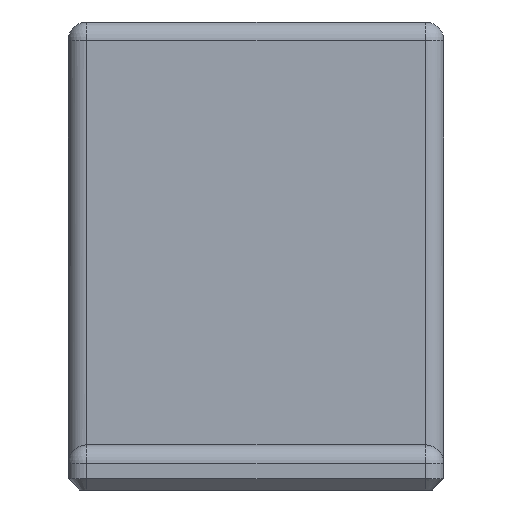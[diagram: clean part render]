
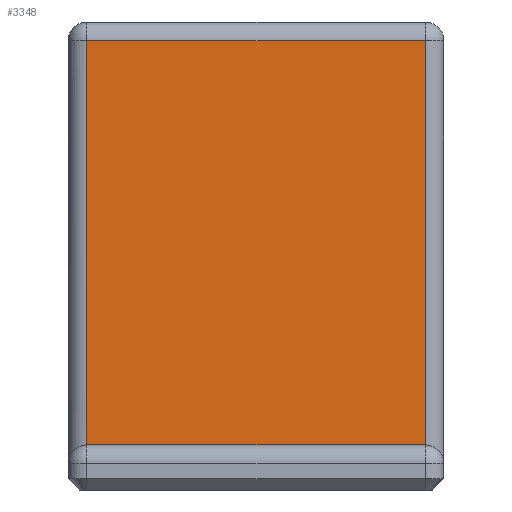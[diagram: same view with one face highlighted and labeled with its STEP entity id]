
A CAD part, left-side view. The second image highlights one B-rep face of the part: STEP entity #3348.
In plain terms, the highlighted planar face has unit normal (-1, 0, 0).
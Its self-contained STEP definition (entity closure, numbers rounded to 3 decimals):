
#887 = CYLINDRICAL_SURFACE('',#888,1.);
#888 = AXIS2_PLACEMENT_3D('',#889,#890,#891);
#889 = CARTESIAN_POINT('',(-32.,1.,2.4));
#890 = DIRECTION('',(0.,0.,1.));
#891 = DIRECTION('',(-1.,-0.,0.));
#1438 = CYLINDRICAL_SURFACE('',#1439,1.);
#1439 = AXIS2_PLACEMENT_3D('',#1440,#1441,#1442);
#1440 = CARTESIAN_POINT('',(-32.,19.,2.4));
#1441 = DIRECTION('',(0.,0.,1.));
#1442 = DIRECTION('',(-1.,-0.,0.));
#1909 = VERTEX_POINT('',#1910);
#1910 = CARTESIAN_POINT('',(-33.,1.,2.4));
#1926 = PLANE('',#1927);
#1927 = AXIS2_PLACEMENT_3D('',#1928,#1929,#1930);
#1928 = CARTESIAN_POINT('',(-39.,0.,2.4));
#1929 = DIRECTION('',(0.,0.,1.));
#1930 = DIRECTION('',(1.,0.,-0.));
#1994 = EDGE_CURVE('',#1909,#1995,#1997,.T.);
#1995 = VERTEX_POINT('',#1996);
#1996 = CARTESIAN_POINT('',(-33.,1.,23.9));
#1997 = SURFACE_CURVE('',#1998,(#2002,#2009),.PCURVE_S1.);
#1998 = LINE('',#1999,#2000);
#1999 = CARTESIAN_POINT('',(-33.,1.,2.4));
#2000 = VECTOR('',#2001,1.);
#2001 = DIRECTION('',(0.,0.,1.));
#2002 = PCURVE('',#887,#2003);
#2003 = DEFINITIONAL_REPRESENTATION('',(#2004),#2008);
#2004 = LINE('',#2005,#2006);
#2005 = CARTESIAN_POINT('',(0.,0.));
#2006 = VECTOR('',#2007,1.);
#2007 = DIRECTION('',(0.,1.));
#2008 = ( GEOMETRIC_REPRESENTATION_CONTEXT(2) 
PARAMETRIC_REPRESENTATION_CONTEXT() REPRESENTATION_CONTEXT('2D SPACE',''
  ) );
#2009 = PCURVE('',#2010,#2015);
#2010 = PLANE('',#2011);
#2011 = AXIS2_PLACEMENT_3D('',#2012,#2013,#2014);
#2012 = CARTESIAN_POINT('',(-33.,0.,0.));
#2013 = DIRECTION('',(1.,0.,-0.));
#2014 = DIRECTION('',(0.,0.,1.));
#2015 = DEFINITIONAL_REPRESENTATION('',(#2016),#2020);
#2016 = LINE('',#2017,#2018);
#2017 = CARTESIAN_POINT('',(2.4,-1.));
#2018 = VECTOR('',#2019,1.);
#2019 = DIRECTION('',(1.,0.));
#2020 = ( GEOMETRIC_REPRESENTATION_CONTEXT(2) 
PARAMETRIC_REPRESENTATION_CONTEXT() REPRESENTATION_CONTEXT('2D SPACE',''
  ) );
#2643 = VERTEX_POINT('',#2644);
#2644 = CARTESIAN_POINT('',(-33.,19.,2.4));
#2700 = EDGE_CURVE('',#2643,#2701,#2703,.T.);
#2701 = VERTEX_POINT('',#2702);
#2702 = CARTESIAN_POINT('',(-33.,19.,23.9));
#2703 = SURFACE_CURVE('',#2704,(#2708,#2715),.PCURVE_S1.);
#2704 = LINE('',#2705,#2706);
#2705 = CARTESIAN_POINT('',(-33.,19.,2.4));
#2706 = VECTOR('',#2707,1.);
#2707 = DIRECTION('',(0.,0.,1.));
#2708 = PCURVE('',#1438,#2709);
#2709 = DEFINITIONAL_REPRESENTATION('',(#2710),#2714);
#2710 = LINE('',#2711,#2712);
#2711 = CARTESIAN_POINT('',(-0.,0.));
#2712 = VECTOR('',#2713,1.);
#2713 = DIRECTION('',(-0.,1.));
#2714 = ( GEOMETRIC_REPRESENTATION_CONTEXT(2) 
PARAMETRIC_REPRESENTATION_CONTEXT() REPRESENTATION_CONTEXT('2D SPACE',''
  ) );
#2715 = PCURVE('',#2010,#2716);
#2716 = DEFINITIONAL_REPRESENTATION('',(#2717),#2721);
#2717 = LINE('',#2718,#2719);
#2718 = CARTESIAN_POINT('',(2.4,-19.));
#2719 = VECTOR('',#2720,1.);
#2720 = DIRECTION('',(1.,0.));
#2721 = ( GEOMETRIC_REPRESENTATION_CONTEXT(2) 
PARAMETRIC_REPRESENTATION_CONTEXT() REPRESENTATION_CONTEXT('2D SPACE',''
  ) );
#3246 = EDGE_CURVE('',#1909,#2643,#3247,.T.);
#3247 = SURFACE_CURVE('',#3248,(#3252,#3258),.PCURVE_S1.);
#3248 = LINE('',#3249,#3250);
#3249 = CARTESIAN_POINT('',(-33.,0.,2.4));
#3250 = VECTOR('',#3251,1.);
#3251 = DIRECTION('',(-0.,1.,0.));
#3252 = PCURVE('',#1926,#3253);
#3253 = DEFINITIONAL_REPRESENTATION('',(#3254),#3257);
#3254 = B_SPLINE_CURVE_WITH_KNOTS('',1,(#3255,#3256),.UNSPECIFIED.,.F.,
  .F.,(2,2),(0.,20.),.PIECEWISE_BEZIER_KNOTS.);
#3255 = CARTESIAN_POINT('',(6.,0.));
#3256 = CARTESIAN_POINT('',(6.,20.));
#3257 = ( GEOMETRIC_REPRESENTATION_CONTEXT(2) 
PARAMETRIC_REPRESENTATION_CONTEXT() REPRESENTATION_CONTEXT('2D SPACE',''
  ) );
#3258 = PCURVE('',#2010,#3259);
#3259 = DEFINITIONAL_REPRESENTATION('',(#3260),#3263);
#3260 = B_SPLINE_CURVE_WITH_KNOTS('',1,(#3261,#3262),.UNSPECIFIED.,.F.,
  .F.,(2,2),(0.,20.),.PIECEWISE_BEZIER_KNOTS.);
#3261 = CARTESIAN_POINT('',(2.4,0.));
#3262 = CARTESIAN_POINT('',(2.4,-20.));
#3263 = ( GEOMETRIC_REPRESENTATION_CONTEXT(2) 
PARAMETRIC_REPRESENTATION_CONTEXT() REPRESENTATION_CONTEXT('2D SPACE',''
  ) );
#3348 = ADVANCED_FACE('',(#3349),#2010,.F.);
#3349 = FACE_BOUND('',#3350,.F.);
#3350 = EDGE_LOOP('',(#3351,#3352,#3353,#3354));
#3351 = ORIENTED_EDGE('',*,*,#1994,.F.);
#3352 = ORIENTED_EDGE('',*,*,#3246,.T.);
#3353 = ORIENTED_EDGE('',*,*,#2700,.T.);
#3354 = ORIENTED_EDGE('',*,*,#3355,.F.);
#3355 = EDGE_CURVE('',#1995,#2701,#3356,.T.);
#3356 = SURFACE_CURVE('',#3357,(#3361,#3368),.PCURVE_S1.);
#3357 = LINE('',#3358,#3359);
#3358 = CARTESIAN_POINT('',(-33.,1.,23.9));
#3359 = VECTOR('',#3360,1.);
#3360 = DIRECTION('',(-0.,1.,0.));
#3361 = PCURVE('',#2010,#3362);
#3362 = DEFINITIONAL_REPRESENTATION('',(#3363),#3367);
#3363 = LINE('',#3364,#3365);
#3364 = CARTESIAN_POINT('',(23.9,-1.));
#3365 = VECTOR('',#3366,1.);
#3366 = DIRECTION('',(0.,-1.));
#3367 = ( GEOMETRIC_REPRESENTATION_CONTEXT(2) 
PARAMETRIC_REPRESENTATION_CONTEXT() REPRESENTATION_CONTEXT('2D SPACE',''
  ) );
#3368 = PCURVE('',#3369,#3374);
#3369 = CYLINDRICAL_SURFACE('',#3370,1.);
#3370 = AXIS2_PLACEMENT_3D('',#3371,#3372,#3373);
#3371 = CARTESIAN_POINT('',(-32.,1.,23.9));
#3372 = DIRECTION('',(-0.,1.,0.));
#3373 = DIRECTION('',(-1.,-0.,0.));
#3374 = DEFINITIONAL_REPRESENTATION('',(#3375),#3379);
#3375 = LINE('',#3376,#3377);
#3376 = CARTESIAN_POINT('',(0.,0.));
#3377 = VECTOR('',#3378,1.);
#3378 = DIRECTION('',(0.,1.));
#3379 = ( GEOMETRIC_REPRESENTATION_CONTEXT(2) 
PARAMETRIC_REPRESENTATION_CONTEXT() REPRESENTATION_CONTEXT('2D SPACE',''
  ) );
